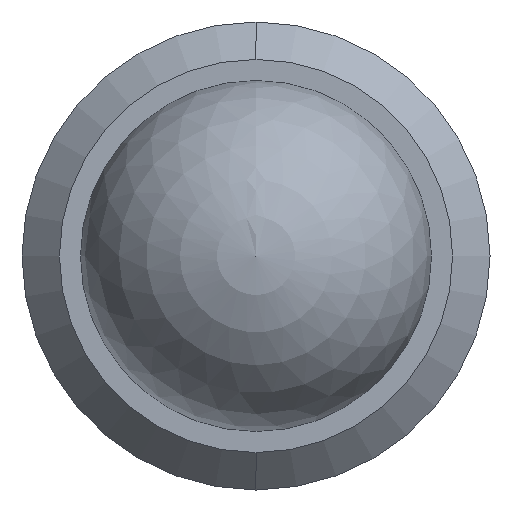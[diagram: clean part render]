
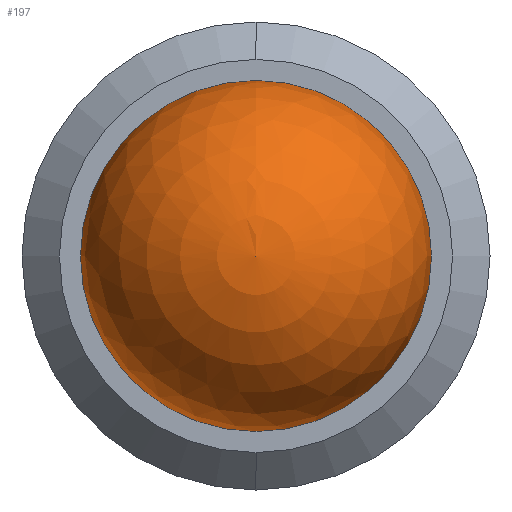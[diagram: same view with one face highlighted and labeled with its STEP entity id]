
A CAD part, left-side view. The second image highlights one B-rep face of the part: STEP entity #197.
In plain terms, the highlighted spherical face has radius 2.381 mm.
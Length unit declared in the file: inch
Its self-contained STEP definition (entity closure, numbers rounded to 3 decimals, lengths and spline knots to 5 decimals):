
#17 = DIRECTION ( 'NONE',  ( 0., 0., 1. ) ) ;
#52 = CARTESIAN_POINT ( 'NONE',  ( 0., 0., 0. ) ) ;
#82 = AXIS2_PLACEMENT_3D ( 'NONE', #236, #536, #17 ) ;
#121 = CIRCLE ( 'NONE', #436, 0.09375 ) ;
#135 = EDGE_LOOP ( 'NONE', ( #173, #516 ) ) ;
#170 = CARTESIAN_POINT ( 'NONE',  ( 0., 0., 0. ) ) ;
#173 = ORIENTED_EDGE ( 'NONE', *, *, #600, .F. ) ;
#197 = ADVANCED_FACE ( 'NONE', ( #352 ), #617, .T. ) ;
#228 = DIRECTION ( 'NONE',  ( 0., 0., -1. ) ) ;
#236 = CARTESIAN_POINT ( 'NONE',  ( 0., 0., 0. ) ) ;
#255 = EDGE_CURVE ( 'NONE', #471, #568, #626, .T. ) ;
#311 = CARTESIAN_POINT ( 'NONE',  ( 0., -0.09375, 0. ) ) ;
#352 = FACE_OUTER_BOUND ( 'NONE', #135, .T. ) ;
#432 = AXIS2_PLACEMENT_3D ( 'NONE', #52, #624, #514 ) ;
#436 = AXIS2_PLACEMENT_3D ( 'NONE', #170, #474, #228 ) ;
#471 = VERTEX_POINT ( 'NONE', #507 ) ;
#474 = DIRECTION ( 'NONE',  ( 1., 0., 0. ) ) ;
#507 = CARTESIAN_POINT ( 'NONE',  ( 0., 0.09375, 0. ) ) ;
#514 = DIRECTION ( 'NONE',  ( 0., 0., 1. ) ) ;
#516 = ORIENTED_EDGE ( 'NONE', *, *, #255, .T. ) ;
#536 = DIRECTION ( 'NONE',  ( -1., 0., 0. ) ) ;
#568 = VERTEX_POINT ( 'NONE', #311 ) ;
#600 = EDGE_CURVE ( 'NONE', #471, #568, #121, .T. ) ;
#617 = SPHERICAL_SURFACE ( 'NONE', #432, 0.09375 ) ;
#624 = DIRECTION ( 'NONE',  ( -1., 0., 0. ) ) ;
#626 = CIRCLE ( 'NONE', #82, 0.09375 ) ;
